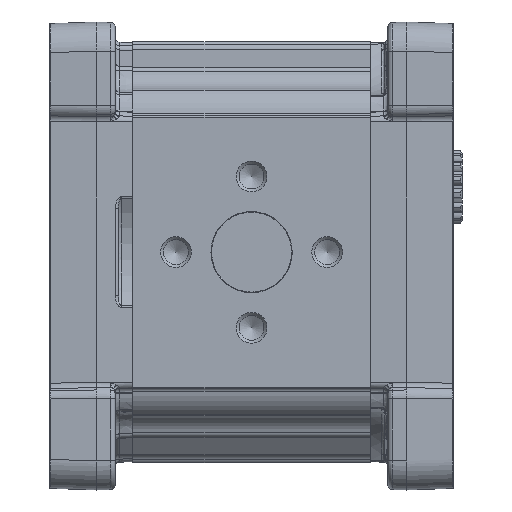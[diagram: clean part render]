
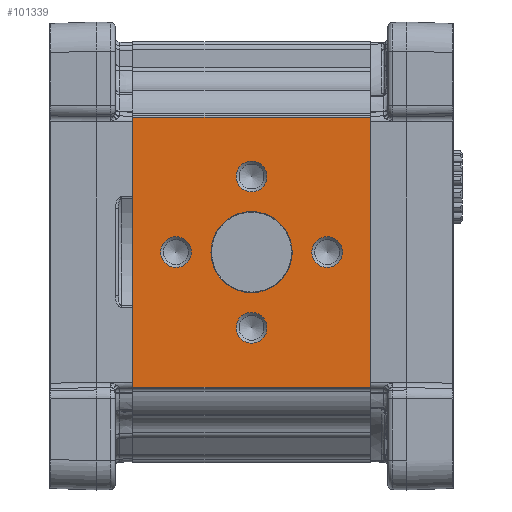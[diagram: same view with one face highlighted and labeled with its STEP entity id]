
A CAD part, left-side view. The second image highlights one B-rep face of the part: STEP entity #101339.
In plain terms, the highlighted planar face has unit normal (-1, 0, 0) as drawn and (1, 0, 0) by its records, which use the part's own axes.
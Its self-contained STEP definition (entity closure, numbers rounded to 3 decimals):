
#2693=LINE('',#163075,#6915);
#2704=LINE('',#163159,#6926);
#2750=LINE('',#163325,#6972);
#2751=LINE('',#163326,#6973);
#6915=VECTOR('',#120888,1000.);
#6926=VECTOR('',#120963,1000.);
#6972=VECTOR('',#121141,1000.);
#6973=VECTOR('',#121142,1000.);
#13522=PLANE('',#107284);
#27929=ORIENTED_EDGE('',*,*,#45800,.T.);
#27930=ORIENTED_EDGE('',*,*,#45801,.T.);
#27931=ORIENTED_EDGE('',*,*,#45802,.T.);
#27932=ORIENTED_EDGE('',*,*,#45803,.T.);
#27933=ORIENTED_EDGE('',*,*,#45804,.T.);
#27934=ORIENTED_EDGE('',*,*,#45675,.F.);
#27935=ORIENTED_EDGE('',*,*,#45805,.T.);
#27936=ORIENTED_EDGE('',*,*,#45717,.F.);
#27937=ORIENTED_EDGE('',*,*,#45806,.T.);
#45675=EDGE_CURVE('',#55461,#55462,#2693,.T.);
#45717=EDGE_CURVE('',#55503,#55504,#2704,.T.);
#45800=EDGE_CURVE('',#55552,#55552,#61343,.F.);
#45801=EDGE_CURVE('',#55553,#55553,#61344,.F.);
#45802=EDGE_CURVE('',#55554,#55554,#61345,.F.);
#45803=EDGE_CURVE('',#55555,#55555,#61346,.F.);
#45804=EDGE_CURVE('',#55556,#55556,#61347,.F.);
#45805=EDGE_CURVE('',#55461,#55504,#2750,.F.);
#45806=EDGE_CURVE('',#55503,#55462,#2751,.F.);
#55461=VERTEX_POINT('',#163074);
#55462=VERTEX_POINT('',#163076);
#55503=VERTEX_POINT('',#163160);
#55504=VERTEX_POINT('',#163161);
#55552=VERTEX_POINT('',#163316);
#55553=VERTEX_POINT('',#163318);
#55554=VERTEX_POINT('',#163320);
#55555=VERTEX_POINT('',#163322);
#55556=VERTEX_POINT('',#163324);
#61343=CIRCLE('',#107285,5.188);
#61344=CIRCLE('',#107286,5.188);
#61345=CIRCLE('',#107287,5.188);
#61346=CIRCLE('',#107288,5.188);
#61347=CIRCLE('',#107289,13.7);
#65552=EDGE_LOOP('',(#27929));
#65553=EDGE_LOOP('',(#27930));
#65554=EDGE_LOOP('',(#27931));
#65555=EDGE_LOOP('',(#27932));
#65556=EDGE_LOOP('',(#27933));
#65557=EDGE_LOOP('',(#27934,#27935,#27936,#27937));
#70080=FACE_BOUND('',#65552,.T.);
#70081=FACE_BOUND('',#65553,.T.);
#70082=FACE_BOUND('',#65554,.T.);
#70083=FACE_BOUND('',#65555,.T.);
#70084=FACE_BOUND('',#65556,.T.);
#70085=FACE_BOUND('',#65557,.T.);
#101339=ADVANCED_FACE('',(#70080,#70081,#70082,#70083,#70084,#70085),#13522,
 .T.);
#107284=AXIS2_PLACEMENT_3D('',#163314,#121129,#121130);
#107285=AXIS2_PLACEMENT_3D('',#163315,#121131,#121132);
#107286=AXIS2_PLACEMENT_3D('',#163317,#121133,#121134);
#107287=AXIS2_PLACEMENT_3D('',#163319,#121135,#121136);
#107288=AXIS2_PLACEMENT_3D('',#163321,#121137,#121138);
#107289=AXIS2_PLACEMENT_3D('',#163323,#121139,#121140);
#120888=DIRECTION('',(0.,0.,-1.));
#120963=DIRECTION('',(0.,0.,1.));
#121129=DIRECTION('',(1.,0.,0.));
#121130=DIRECTION('',(0.,0.,1.));
#121131=DIRECTION('',(1.,0.,0.));
#121132=DIRECTION('',(0.,0.,1.));
#121133=DIRECTION('',(1.,0.,0.));
#121134=DIRECTION('',(0.,0.,1.));
#121135=DIRECTION('',(1.,0.,0.));
#121136=DIRECTION('',(0.,0.,1.));
#121137=DIRECTION('',(1.,0.,0.));
#121138=DIRECTION('',(0.,0.,1.));
#121139=DIRECTION('',(1.,0.,0.));
#121140=DIRECTION('',(0.,0.,1.));
#121141=DIRECTION('',(0.,1.,0.));
#121142=DIRECTION('',(0.,-1.,0.));
#163074=CARTESIAN_POINT('',(57.5,80.,45.5));
#163075=CARTESIAN_POINT('',(57.5,80.,91.388));
#163076=CARTESIAN_POINT('',(57.5,80.,-45.5));
#163159=CARTESIAN_POINT('',(57.5,0.,-44.978));
#163160=CARTESIAN_POINT('',(57.5,0.,-45.5));
#163161=CARTESIAN_POINT('',(57.5,0.,45.5));
#163314=CARTESIAN_POINT('',(57.5,-146.137,91.388));
#163315=CARTESIAN_POINT('',(57.5,40.,25.5));
#163316=CARTESIAN_POINT('',(57.5,40.,30.688));
#163317=CARTESIAN_POINT('',(57.5,14.5,0.));
#163318=CARTESIAN_POINT('',(57.5,14.5,5.188));
#163319=CARTESIAN_POINT('',(57.5,40.,-25.5));
#163320=CARTESIAN_POINT('',(57.5,40.,-20.312));
#163321=CARTESIAN_POINT('',(57.5,65.5,0.));
#163322=CARTESIAN_POINT('',(57.5,65.5,5.188));
#163323=CARTESIAN_POINT('',(57.5,40.,0.));
#163324=CARTESIAN_POINT('',(57.5,40.,13.7));
#163325=CARTESIAN_POINT('',(57.5,-146.137,45.5));
#163326=CARTESIAN_POINT('',(57.5,-146.137,-45.5));
